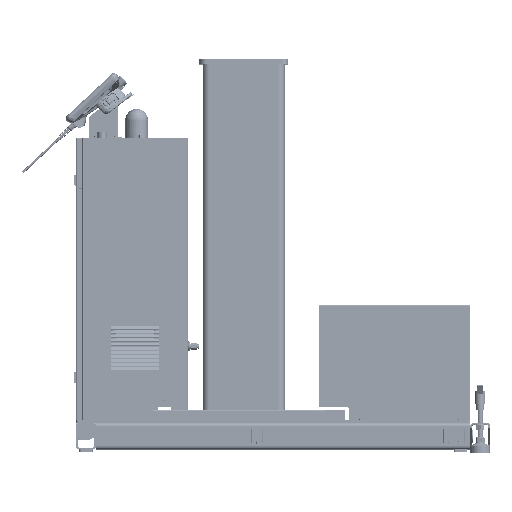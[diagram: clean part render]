
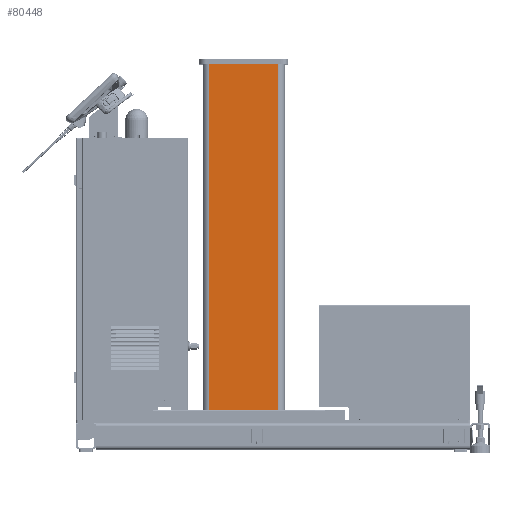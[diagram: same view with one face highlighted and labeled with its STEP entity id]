
A CAD part, top view. The second image highlights one B-rep face of the part: STEP entity #80448.
In plain terms, the highlighted planar face has unit normal (0, 0, 1).
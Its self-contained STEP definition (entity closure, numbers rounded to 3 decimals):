
#68413 = LINE ( 'NONE', #473257, #497996 ) ;
#80271 = VECTOR ( 'NONE', #119123, 1000. ) ;
#80448 = ADVANCED_FACE ( 'NONE', ( #472783 ), #204546, .F. ) ;
#110381 = CARTESIAN_POINT ( 'NONE',  ( -195., 18., 125. ) ) ;
#117401 = CARTESIAN_POINT ( 'NONE',  ( -195., 1092., 125. ) ) ;
#119123 = DIRECTION ( 'NONE',  ( 1., 0., 0. ) ) ;
#144042 = CARTESIAN_POINT ( 'NONE',  ( 15., 1092., 125. ) ) ;
#153593 = DIRECTION ( 'NONE',  ( 1., 0., 0. ) ) ;
#165735 = ORIENTED_EDGE ( 'NONE', *, *, #383055, .F. ) ;
#180380 = VECTOR ( 'NONE', #209841, 1000. ) ;
#181389 = LINE ( 'NONE', #117401, #80271 ) ;
#184087 = EDGE_CURVE ( 'NONE', #226786, #380325, #430149, .T. ) ;
#190800 = ORIENTED_EDGE ( 'NONE', *, *, #356066, .F. ) ;
#204546 = PLANE ( 'NONE',  #309317 ) ;
#206206 = DIRECTION ( 'NONE',  ( 0., -1., 0. ) ) ;
#209841 = DIRECTION ( 'NONE',  ( 0., -1., 0. ) ) ;
#223270 = CARTESIAN_POINT ( 'NONE',  ( 15., 18., 125. ) ) ;
#226786 = VERTEX_POINT ( 'NONE', #261136 ) ;
#236355 = CARTESIAN_POINT ( 'NONE',  ( -195., 1092., 125. ) ) ;
#248607 = CARTESIAN_POINT ( 'NONE',  ( 15., 1092., 125. ) ) ;
#261136 = CARTESIAN_POINT ( 'NONE',  ( -195., 1092., 125. ) ) ;
#262024 = ORIENTED_EDGE ( 'NONE', *, *, #264710, .T. ) ;
#264710 = EDGE_CURVE ( 'NONE', #380325, #469173, #68413, .T. ) ;
#282183 = DIRECTION ( 'NONE',  ( 0., -1., 0. ) ) ;
#309317 = AXIS2_PLACEMENT_3D ( 'NONE', #236355, #317550, #282183 ) ;
#317550 = DIRECTION ( 'NONE',  ( 0., 0., -1. ) ) ;
#322713 = VECTOR ( 'NONE', #206206, 1000. ) ;
#322715 = CARTESIAN_POINT ( 'NONE',  ( -195., 1092., 125. ) ) ;
#331709 = ORIENTED_EDGE ( 'NONE', *, *, #184087, .T. ) ;
#356066 = EDGE_CURVE ( 'NONE', #431170, #469173, #401319, .T. ) ;
#380325 = VERTEX_POINT ( 'NONE', #110381 ) ;
#383055 = EDGE_CURVE ( 'NONE', #226786, #431170, #181389, .T. ) ;
#401319 = LINE ( 'NONE', #248607, #180380 ) ;
#430149 = LINE ( 'NONE', #322715, #322713 ) ;
#431170 = VERTEX_POINT ( 'NONE', #144042 ) ;
#469173 = VERTEX_POINT ( 'NONE', #223270 ) ;
#472783 = FACE_OUTER_BOUND ( 'NONE', #478117, .T. ) ;
#473257 = CARTESIAN_POINT ( 'NONE',  ( -195., 18., 125. ) ) ;
#478117 = EDGE_LOOP ( 'NONE', ( #262024, #190800, #165735, #331709 ) ) ;
#497996 = VECTOR ( 'NONE', #153593, 1000. ) ;
